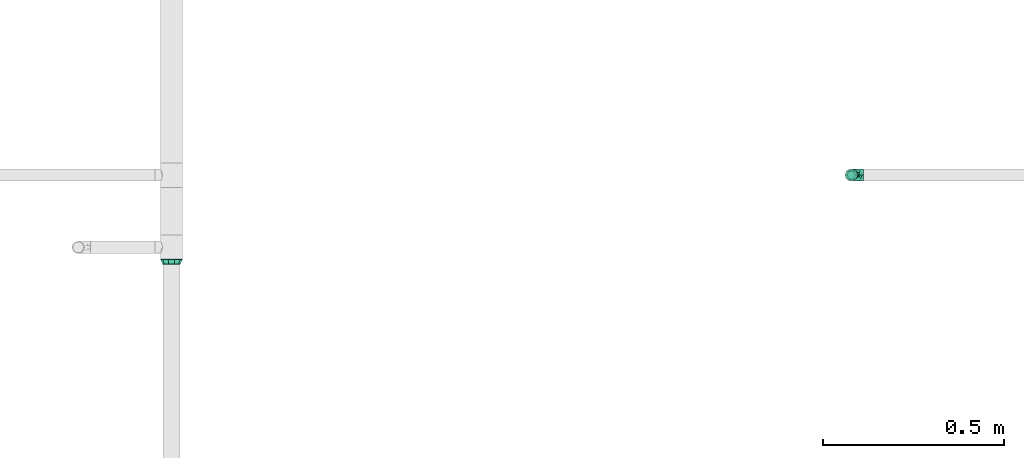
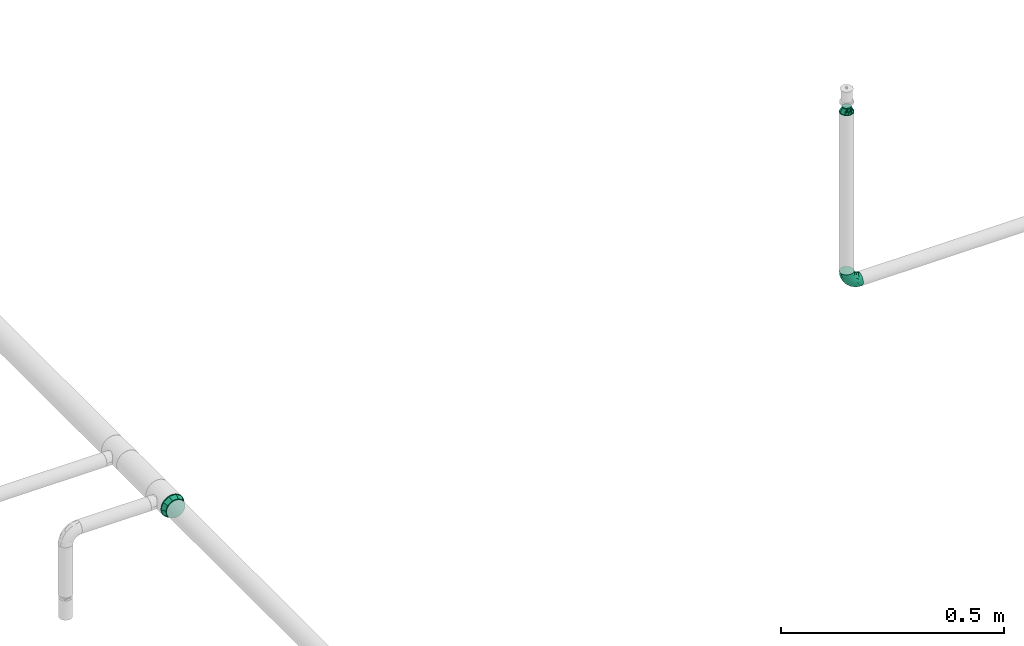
# One storey, part 98 of 157: 3 flow fittings.
"""IFC2X3 building model written with IfcOpenShell, lengths in millimetres."""

from ifc_helpers import new_model, entity, si_unit, converted_unit, derived_unit, direction, frame, origin_with_axes, place, context, subcontext, project, spatial, open_shell, surface_model, source, transform, mapped, type_object, element, save


model = new_model("IFC2X3")

# Units and contexts
model_context = context("Model", 3, precision=0.01, world=frame((0.0, 4.29681676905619e-09, 0.0)), true_north=direction((4.01073788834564e-13, 1.0)))
plan_context = context("Plan", 3, precision=0.01, world=frame((0.0, 4.29681676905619e-09, 0.0)), true_north=direction((4.01073788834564e-13, 1.0)))
body_context = subcontext(model_context, "Body", "Model", "MODEL_VIEW")
ifc_project = project(units=[converted_unit("PLANEANGLEUNIT", "DEGREE", entity("IfcPositiveLengthMeasure", 0.0174532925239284), si_unit("PLANEANGLEUNIT", "RADIAN"), dimensions=[0, 0, 0, 0, 0, 0, 0]), si_unit("AREAUNIT", "SQUARE_METRE"), si_unit("LENGTHUNIT", "METRE", prefix="MILLI"), si_unit("MASSUNIT", "GRAM", prefix="KILO"), si_unit("POWERUNIT", "WATT"), si_unit("PRESSUREUNIT", "PASCAL"), si_unit("FORCEUNIT", "NEWTON", prefix="KILO"), si_unit("ELECTRICCURRENTUNIT", "AMPERE"), si_unit("THERMODYNAMICTEMPERATUREUNIT", "DEGREE_CELSIUS"), si_unit("TIMEUNIT", "SECOND"), si_unit("VOLUMEUNIT", "CUBIC_METRE"), derived_unit("LINEARVELOCITYUNIT", [(si_unit("LENGTHUNIT", "METRE"), 1), (si_unit("TIMEUNIT", "SECOND"), -1)]), derived_unit("VOLUMETRICFLOWRATEUNIT", [(si_unit("VOLUMEUNIT", "CUBIC_METRE"), 1), (si_unit("TIMEUNIT", "SECOND"), -1)]), derived_unit("THERMALTRANSMITTANCEUNIT", [(si_unit("POWERUNIT", "WATT"), 1), (si_unit("THERMODYNAMICTEMPERATUREUNIT", "KELVIN"), -1), (si_unit("AREAUNIT", "SQUARE_METRE"), -1)])], contexts=[model_context, plan_context])

# Site, building, storey
site_placement = place(None, frame((0.0, -4.29681676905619e-09, 0.0), z_axis=(0.0, 0.0, 1.0), x_axis=(1.0, 0.0, 0.0)))
site = spatial("IfcSite", under=ifc_project, at=site_placement, CompositionType="ELEMENT")
building_placement = place(site_placement, frame((0.0, 4.29681676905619e-09, 0.0), z_axis=(0.0, 0.0, 1.0), x_axis=(1.0, 0.0, 0.0)))
building = spatial("IfcBuilding", under=site, at=building_placement, Name="mc-building", CompositionType="ELEMENT")
storey_placement = place(building_placement, frame((0.0, 0.0, 204000.0), z_axis=(0.0, 0.0, 1.0), x_axis=(1.0, 0.0, 0.0)))
storey = spatial("IfcBuildingStorey", under=building, at=storey_placement, Name="Nivå D", CompositionType="ELEMENT", Elevation=204000.0)

# Flow fittings
pipe_fitting_type_1 = type_object("IfcPipeFittingType", Name="magi_pipe_fe_elbow_short_001", PredefinedType="BEND")
shared_shape_1 = source(origin_with_axes(), body_context, "Body", "SurfaceModel", [
    surface_model("IfcShellBasedSurfaceModel", [(-33.8, 8.45, -14.63583), (-33.8, 4.37404, -16.32415), (-33.8, 11.9501, -11.9501), (-33.8, -11.9501, -11.9501), (-33.8, -14.63583, -8.45), (-33.8, -8.45, -14.63583), (-33.8, 0.0, -16.9), (-33.8, -4.37404, -16.32415), (-33.8, -4.37404, 16.32415), (-33.8, 0.0, 16.9), (-33.8, -8.45, 14.63583), (-33.8, 16.32415, -4.37404), (-33.8, 14.63583, -8.45), (-33.8, -16.32415, -4.37404), (-33.8, -16.9, 0.0), (-33.8, -16.32415, 4.37404), (-33.8, 11.9501, 11.9501), (-33.8, 14.63583, 8.45), (-33.8, 16.32415, 4.37404), (-33.8, 4.37404, 16.32415), (-33.8, 8.45, 14.63583), (-33.8, -14.63583, 8.45), (-33.8, -11.9501, 11.9501), (-33.8, 16.9, 0.0), (-11.9501, 33.8, -11.9501), (0.0, 33.8, -16.9), (-4.37404, 33.8, -16.32415), (-8.45, 33.8, -14.63583), (-14.63583, 33.8, -8.45), (-16.32415, 33.8, -4.37404), (14.63583, 33.8, -8.45), (8.45, 33.8, 14.63583), (16.32415, 33.8, -4.37404), (8.45, 33.8, -14.63583), (11.9501, 33.8, -11.9501), (4.37404, 33.8, -16.32415), (16.32415, 33.8, 4.37404), (16.9, 33.8, 0.0), (-11.9501, 33.8, 11.9501), (-16.32415, 33.8, 4.37404), (-14.63583, 33.8, 8.45), (-8.45, 33.8, 14.63583), (-4.37404, 33.8, 16.32415), (11.9501, 33.8, 11.9501), (14.63583, 33.8, 8.45), (0.0, 33.8, 16.9), (4.37404, 33.8, 16.32415), (-16.9, 33.8, 0.0), (-24.79389, -13.12945, 9.48721), (-22.19287, -9.75018, 12.59315), (-24.09897, -14.97035, 0.0), (-14.93934, -10.76256, 8.5297), (-22.46095, -14.75051, 5.27077), (14.75051, 22.46094, 5.27077), (11.9251, 13.23888, 4.33236), (13.04069, 14.39795, 0.0), (7.71387, 13.68847, 11.55891), (9.75018, 22.19287, 12.59315), (4.10169, 13.0571, 14.04018), (-24.84007, -6.39063, 15.2048), (-25.81779, -2.23879, 16.61097), (-23.66549, 2.59054, 16.87119), (-26.50418, 14.06512, 11.08152), (-24.21253, 17.66365, 7.72657), (-29.58514, 15.86957, 7.00283), (-6.17382, -7.5455, 0.0), (-13.23888, -11.9251, 4.33236), (-14.39795, -13.04069, 0.0), (-17.81434, 18.87373, 11.97104), (-6.30846, 29.15138, 15.82987), (-2.31622, 25.28002, 16.85849), (-29.23923, 10.23435, 13.77053), (-1.45439, -2.85688, 7.61475), (-0.28326, 0.34872, 10.09509), (-5.74484, -4.04709, 10.4122), (-4.41137, 11.31918, 16.59407), (-8.39727, 3.10034, 15.7812), (-1.72649, 9.1306, 15.53089), (-17.39909, 24.75344, 7.64977), (-26.19233, 20.0512, 0.0), (-28.14518, 17.29657, 4.25857), (-26.05147, 6.6281, 15.96447), (-5.87354, 16.61944, 16.86968), (-12.51807, 12.51807, 16.48937), (-10.06312, 7.38516, 16.81295), (-3.01882, 3.01882, 13.81718), (-13.0571, -4.10169, 14.04018), (-16.82553, -0.15166, 16.38038), (10.76256, 14.93934, 8.5297), (13.12945, 24.79389, 9.48721), (6.39063, 24.84007, 15.2048), (2.23879, 25.81779, 16.61097), (-13.68847, -7.71387, 11.55891), (14.97035, 24.09897, 0.0), (-7.30894, 22.89991, 16.09489), (-10.67958, 26.17414, 14.008), (-12.78295, 18.26924, 15.06066), (-13.88562, 22.45231, 12.93244), (-18.04944, 15.16501, 14.04434), (-23.11658, 20.08178, 4.02986), (-21.84989, 21.84989, 0.0), (-18.55817, 25.48277, 3.93065), (-13.95142, 26.94732, 11.03289), (-18.57098, 7.23906, 16.59756), (-16.58335, 4.14122, 16.89279), (-17.96666, 11.46709, 15.63151), (-9.84453, 17.54304, 16.18938), (0.15166, 16.82553, 16.38038), (-23.27207, 11.47201, 14.23154), (3.84842, 5.86994, 10.70473), (-8.0212, -7.54413, 7.93275), (1.00345, -2.19508, 4.57414), (5.13203, 3.01004, 5.90201), (5.24161, 1.7543, 2.53265), (8.70457, 7.04947, 3.99182), (-20.0512, 26.19233, 0.0), (8.4852, 8.76699, 7.09296), (-4.55488, -6.72064, 4.90681), (2.05031, -2.05031, 0.0), (7.5455, 6.17382, 0.0), (-26.75399, 2.1369, -16.845), (-14.61995, 24.73803, -11.27736), (-28.45274, -13.45335, -9.81895), (-26.00469, 6.63555, -15.96645), (-23.06726, 20.04573, -4.26202), (-13.80647, -4.26506, -14.17873), (-14.67501, -0.21081, -16.07388), (-6.7902, -0.2828, -13.8478), (-24.53586, 11.08096, -14.13417), (-26.72048, 14.00837, -11.05776), (10.0967, 24.44989, -12.75976), (5.83237, 21.40218, -15.03047), (6.66249, 28.54238, -15.38093), (-20.38182, 15.48705, -12.74596), (12.53268, 21.23441, -9.15363), (12.54494, 15.67504, -5.54878), (9.7522, 12.89279, -8.66343), (-15.65186, 19.64213, -13.01327), (-12.03528, 20.66498, -14.67665), (-15.61907, 15.61906, -14.83879), (-25.56551, -15.26206, 0.0), (-24.65452, -15.12934, -5.50955), (13.45335, 28.45274, -9.81895), (15.12934, 24.65452, -5.50955), (-7.35442, -8.31014, -5.65563), (-15.67504, -12.54494, -5.54878), (-24.44989, -10.0967, -12.75976), (0.16522, 0.41303, -9.71728), (-5.70658, -5.33066, -8.89288), (-5.13869, -2.37198, -11.53565), (-21.23441, -12.53268, -9.15363), (0.71146, 7.93863, -14.09382), (0.21081, 14.67501, -16.07388), (3.49291, 14.42772, -14.76381), (-24.89911, -2.13088, -16.591), (-28.54238, -6.66249, -15.38093), (-18.44386, -7.71663, -13.26957), (2.13088, 24.89911, -16.591), (-28.64342, 17.44413, -2.89318), (1.70017, -1.28722, -5.09504), (-16.57067, 26.81947, -7.36596), (-17.69055, 27.4263, -3.76405), (-12.89279, -9.7522, -8.66343), (-5.96611, 5.96611, -15.95814), (-20.53709, 20.09345, -8.28985), (-2.1369, 26.75399, -16.845), (-6.89872, 24.58781, -16.02578), (-10.60739, 26.53157, -13.98044), (-21.40218, -5.83237, -15.03047), (2.93192, 5.89627, -11.55917), (6.89393, 12.61842, -11.82233), (5.58056, 5.95325, -8.79455), (-3.99512, 18.61798, -16.89635), (8.31014, 7.35442, -5.65563), (-9.1383, 9.86148, -16.89041), (-9.99983, 16.02119, -16.39699), (-16.68576, 9.78031, -16.34199), (-27.01915, 16.61158, -7.12979), (15.26206, 25.56551, 0.0), (-18.61798, 3.99512, -16.89635), (-19.37495, 27.82495, 0.0), (-12.61842, -6.89393, -11.82233), (-18.84705, 19.14018, -10.96545)], [open_shell([[[0, 1, 2]], [[3, 4, 5]], [[6, 7, 5]], [[8, 9, 10]], [[1, 6, 2]], [[11, 12, 2]], [[4, 2, 6]], [[2, 13, 10]], [[5, 4, 6]], [[2, 4, 13]], [[14, 15, 13]], [[11, 2, 16]], [[11, 17, 18]], [[11, 16, 17]], [[19, 20, 16]], [[16, 2, 10]], [[19, 16, 10]], [[21, 22, 15]], [[22, 13, 15]], [[22, 10, 13]], [[10, 9, 19]], [[11, 18, 23]], [[24, 25, 26]], [[24, 26, 27]], [[24, 28, 29]], [[25, 24, 30]], [[31, 32, 24]], [[33, 30, 34]], [[33, 35, 25]], [[25, 30, 33]], [[32, 30, 24]], [[32, 36, 37]], [[38, 24, 29]], [[39, 40, 29]], [[40, 38, 29]], [[38, 41, 42]], [[38, 31, 24]], [[31, 38, 42]], [[36, 43, 44]], [[36, 32, 43]], [[31, 45, 46]], [[32, 31, 43]], [[42, 45, 31]], [[39, 29, 47]], [[22, 48, 49]], [[15, 14, 50]], [[51, 48, 52]], [[53, 54, 55]], [[48, 22, 21]], [[15, 52, 21]], [[56, 57, 58]], [[49, 10, 22]], [[49, 59, 10]], [[9, 60, 61]], [[62, 63, 64]], [[65, 66, 67]], [[57, 43, 31]], [[62, 68, 63]], [[42, 69, 70]], [[20, 71, 16]], [[8, 60, 9]], [[72, 73, 74]], [[75, 76, 77]], [[16, 62, 17]], [[40, 39, 78]], [[79, 23, 80]], [[64, 18, 17]], [[9, 61, 19]], [[19, 81, 20]], [[82, 83, 84]], [[74, 85, 86]], [[59, 86, 87]], [[88, 89, 57]], [[90, 31, 46]], [[44, 53, 36]], [[46, 45, 91]], [[54, 53, 88]], [[44, 89, 53]], [[92, 86, 49]], [[89, 44, 43]], [[10, 59, 8]], [[53, 55, 93]], [[93, 36, 53]], [[66, 52, 67]], [[94, 82, 70]], [[95, 96, 94]], [[97, 98, 96]], [[79, 99, 100]], [[41, 38, 95]], [[101, 100, 99]], [[68, 78, 63]], [[42, 41, 69]], [[23, 18, 80]], [[95, 94, 69]], [[78, 101, 99]], [[38, 102, 95]], [[70, 45, 42]], [[97, 95, 102]], [[15, 50, 52]], [[90, 57, 31]], [[57, 90, 58]], [[81, 19, 61]], [[103, 104, 84]], [[105, 81, 103]], [[38, 40, 102]], [[106, 96, 83]], [[94, 106, 82]], [[91, 70, 107]], [[71, 62, 16]], [[62, 108, 98]], [[86, 59, 49]], [[67, 52, 50]], [[60, 59, 87]], [[92, 49, 51]], [[86, 85, 76]], [[91, 90, 46]], [[37, 36, 93]], [[107, 77, 58]], [[107, 58, 90]], [[58, 85, 109]], [[110, 74, 92]], [[72, 74, 110]], [[66, 51, 52]], [[72, 111, 112]], [[113, 114, 112]], [[56, 88, 57]], [[52, 48, 21]], [[49, 48, 51]], [[57, 89, 43]], [[53, 89, 88]], [[103, 81, 61]], [[71, 81, 108]], [[18, 64, 80]], [[63, 78, 99]], [[47, 115, 101]], [[101, 115, 100]], [[40, 78, 102]], [[68, 102, 78]], [[97, 96, 95]], [[105, 98, 108]], [[103, 84, 83]], [[107, 70, 82]], [[76, 84, 87]], [[82, 84, 75]], [[70, 91, 45]], [[90, 91, 107]], [[59, 60, 8]], [[61, 60, 87]], [[73, 85, 74]], [[109, 112, 116]], [[103, 61, 104]], [[105, 103, 83]], [[96, 105, 83]], [[81, 105, 108]], [[96, 98, 105]], [[62, 98, 68]], [[61, 87, 104]], [[87, 84, 104]], [[86, 76, 87]], [[77, 76, 85]], [[58, 77, 85]], [[75, 77, 107]], [[82, 75, 107]], [[76, 75, 84]], [[81, 71, 20]], [[62, 71, 108]], [[95, 69, 41]], [[70, 69, 94]], [[62, 64, 17]], [[80, 63, 99]], [[63, 80, 64]], [[80, 99, 79]], [[66, 65, 117]], [[110, 66, 117]], [[112, 114, 116]], [[118, 117, 65]], [[110, 92, 51]], [[112, 111, 113]], [[119, 55, 54]], [[74, 86, 92]], [[58, 109, 56]], [[116, 56, 109]], [[66, 110, 51]], [[72, 110, 117]], [[111, 72, 117]], [[73, 112, 109]], [[117, 118, 111]], [[113, 111, 118]], [[118, 119, 113]], [[114, 119, 54]], [[119, 114, 113]], [[116, 54, 88]], [[54, 116, 114]], [[116, 88, 56]], [[112, 73, 72]], [[85, 73, 109]], [[78, 39, 101]], [[47, 101, 39]], [[102, 68, 97]], [[97, 68, 98]], [[82, 106, 83]], [[94, 96, 106]], [[1, 120, 6]], [[28, 24, 121]], [[3, 122, 4]], [[0, 123, 1]], [[100, 124, 79]], [[125, 126, 127]], [[128, 2, 129]], [[130, 131, 132]], [[128, 129, 133]], [[134, 135, 136]], [[137, 138, 139]], [[128, 0, 2]], [[67, 140, 141]], [[134, 142, 143]], [[141, 13, 4]], [[144, 65, 145]], [[146, 3, 5]], [[147, 148, 149]], [[145, 141, 150]], [[151, 152, 153]], [[154, 7, 6]], [[5, 155, 146]], [[150, 146, 156]], [[155, 5, 7]], [[143, 135, 134]], [[35, 157, 25]], [[23, 79, 158]], [[148, 159, 144]], [[160, 161, 29]], [[145, 162, 144]], [[163, 152, 151]], [[29, 28, 160]], [[121, 164, 160]], [[33, 34, 130]], [[25, 165, 26]], [[26, 165, 166]], [[142, 34, 30]], [[24, 27, 167]], [[124, 161, 164]], [[157, 35, 132]], [[155, 154, 168]], [[123, 0, 128]], [[169, 170, 171]], [[172, 157, 152]], [[26, 166, 27]], [[132, 35, 33]], [[142, 130, 34]], [[168, 154, 126]], [[136, 135, 173]], [[133, 137, 139]], [[2, 12, 129]], [[170, 131, 130]], [[30, 32, 143]], [[172, 174, 175]], [[176, 123, 128]], [[158, 177, 11]], [[135, 55, 119]], [[167, 27, 166]], [[175, 166, 172]], [[137, 167, 138]], [[122, 141, 4]], [[140, 14, 13]], [[32, 37, 178]], [[170, 130, 134]], [[152, 157, 131]], [[165, 157, 172]], [[153, 170, 151]], [[152, 163, 174]], [[168, 125, 156]], [[122, 146, 150]], [[120, 154, 6]], [[179, 174, 126]], [[179, 126, 154]], [[126, 163, 127]], [[162, 145, 150]], [[140, 13, 141]], [[32, 178, 143]], [[55, 143, 178]], [[177, 129, 12]], [[128, 133, 139]], [[176, 128, 139]], [[120, 123, 179]], [[121, 160, 28]], [[161, 100, 180]], [[166, 175, 138]], [[121, 24, 167]], [[161, 47, 29]], [[79, 124, 158]], [[124, 164, 177]], [[161, 124, 100]], [[136, 171, 170]], [[127, 163, 151]], [[147, 171, 159]], [[148, 144, 162]], [[127, 151, 169]], [[127, 181, 125]], [[129, 177, 164]], [[12, 11, 177]], [[159, 65, 144]], [[67, 141, 145]], [[143, 55, 135]], [[135, 119, 173]], [[123, 120, 1]], [[154, 120, 179]], [[157, 165, 25]], [[166, 165, 172]], [[172, 152, 174]], [[176, 139, 175]], [[126, 174, 163]], [[176, 174, 179]], [[174, 176, 175]], [[123, 176, 179]], [[150, 181, 162]], [[127, 149, 181]], [[181, 148, 162]], [[159, 148, 147]], [[171, 136, 173]], [[170, 134, 136]], [[159, 171, 173]], [[171, 147, 169]], [[169, 147, 149]], [[151, 170, 169]], [[164, 182, 129]], [[182, 121, 137]], [[181, 149, 148]], [[169, 149, 127]], [[182, 137, 133]], [[167, 137, 121]], [[166, 138, 167]], [[175, 139, 138]], [[129, 182, 133]], [[121, 182, 164]], [[161, 160, 164]], [[47, 161, 180]], [[177, 158, 124]], [[23, 158, 11]], [[130, 132, 33]], [[157, 132, 131]], [[143, 142, 30]], [[130, 142, 134]], [[154, 155, 7]], [[146, 155, 168]], [[146, 122, 3]], [[141, 122, 150]], [[152, 131, 153]], [[159, 119, 118]], [[67, 145, 65]], [[170, 153, 131]], [[119, 159, 173]], [[159, 118, 65]], [[156, 125, 181]], [[126, 125, 168]], [[150, 156, 181]], [[168, 156, 146]]])]),
])
flow_fitting_1_placement = place(storey_placement, frame((529640.35, 410800.0, 2690.0), z_axis=(0.0, 1.0, 0.0), x_axis=(-1.0, 0.0, 0.0)))
element("IfcFlowFitting", 1, at=flow_fitting_1_placement, inside=storey, type_object=pipe_fitting_type_1, Name="magi_pipe_fe_elbow_short_001", context=body_context, shape_type="MappedRepresentation", body=[
    mapped(shared_shape_1, transform((0.0, 0.0, 0.0), scale=1.0)),
])
pipe_fitting_type_2 = type_object("IfcPipeFittingType", Name="magi_pipe_fe_reducer_centric_short_NOR", PredefinedType="TRANSITION")
shared_shape_2 = source(origin_with_axes(), body_context, "Body", "SurfaceModel", [
    surface_model("IfcShellBasedSurfaceModel", [(-2.0, -7.56604, -7.56604), (-2.0, -10.33541, -2.76936), (-2.0, -5.35, -9.26647), (-2.0, 5.35, -9.26647), (-2.0, 10.33541, -2.76936), (-2.0, 7.56604, -7.56604), (12.4, 11.9501, 11.9501), (12.4, 0.0, 16.9), (12.4, 11.9501, -11.9501), (12.4, 16.9, 0.0), (0.0, -10.7, 0.0), (0.0, -5.35, 9.26647), (0.0, -5.35, -9.26647), (0.0, 10.7, 0.0), (12.4, 15.66253, -2.98753), (12.4, 8.96258, -13.18758), (0.0, 6.6875, -6.94985), (12.4, -15.66253, -2.98753), (12.4, -16.9, 0.0), (12.4, 5.97505, -14.42505), (0.0, 5.35, -9.26647), (12.4, 14.42505, -5.97505), (0.0, 8.025, -4.63324), (0.0, 9.3625, -2.31662), (0.0, -9.3625, -2.31662), (0.0, -8.025, -4.63324), (12.4, -14.42505, -5.97505), (12.4, 13.18758, -8.96258), (12.4, -13.18758, -8.96258), (12.4, -11.9501, -11.9501), (0.0, -6.6875, -6.94985), (12.4, -8.96258, -13.18758), (12.4, -5.97505, -14.42505), (12.4, -15.66253, 2.98753), (12.4, -8.96258, 13.18758), (0.0, -6.6875, 6.94985), (12.4, -11.9501, 11.9501), (12.4, 15.66253, 2.98753), (12.4, -5.97505, 14.42505), (12.4, -14.42505, 5.97505), (0.0, -8.025, 4.63324), (0.0, -9.3625, 2.31662), (0.0, 9.3625, 2.31662), (0.0, 8.025, 4.63324), (12.4, 14.42505, 5.97505), (12.4, -13.18758, 8.96258), (12.4, 13.18758, 8.96258), (0.0, 6.6875, 6.94985), (12.4, 8.96258, 13.18758), (0.0, 5.35, 9.26647), (12.4, 5.97505, 14.42505), (14.4, 4.37404, -16.32415), (14.4, 8.45, -14.63583), (14.4, 11.9501, -11.9501), (14.4, -8.45, -14.63583), (14.4, 16.32415, -4.37404), (14.4, 16.32415, 4.37404), (14.4, 14.63583, -8.45), (14.4, 0.0, -16.9), (14.4, -4.37404, -16.32415), (14.4, -11.9501, -11.9501), (14.4, -16.32415, -4.37404), (14.4, -14.63583, -8.45), (14.4, -16.32415, 4.37404), (14.4, 16.9, 0.0), (14.4, 14.63583, 8.45), (14.4, 11.9501, 11.9501), (14.4, 4.37404, 16.32415), (14.4, 8.45, 14.63583), (14.4, 0.0, 16.9), (14.4, -14.63583, 8.45), (14.4, -16.9, 0.0), (14.4, -8.45, 14.63583), (14.4, -11.9501, 11.9501), (14.4, -4.37404, 16.32415), (12.4, 4.37404, 16.32415), (12.4, -14.63583, 8.45), (12.4, 16.32415, 4.37404), (12.4, 8.45, 14.63583), (12.4, 14.63583, 8.45), (12.4, -8.45, 14.63583), (12.4, -4.37404, 16.32415), (12.4, -16.32415, 4.37404), (12.4, -16.32415, -4.37404), (12.4, -8.45, -14.63583), (12.4, 16.32415, -4.37404), (12.4, 14.63583, -8.45), (12.4, 8.45, -14.63583), (12.4, 4.37404, -16.32415), (12.4, 0.0, -16.9), (12.4, -14.63583, -8.45), (12.4, -4.37404, -16.32415), (-2.0, 2.76936, 10.33541), (-2.0, 0.0, 10.7), (-2.0, 5.35, 9.26647), (-2.0, 7.56604, 7.56604), (-2.0, 9.26647, 5.35), (-2.0, 10.33541, 2.76936), (-2.0, -10.33541, 2.76936), (-2.0, -2.76936, 10.33541), (-2.0, -7.56604, 7.56604), (-2.0, -5.35, 9.26647), (-2.0, -9.26647, 5.35), (-2.0, -10.7, 0.0), (-2.0, 9.26647, -5.35), (-2.0, 2.76936, -10.33541), (-2.0, -9.26647, -5.35), (-2.0, 0.0, -10.7), (-2.0, -2.76936, -10.33541), (-2.0, 10.7, 0.0), (0.0, 0.0, -10.7), (0.0, 2.76936, -10.33541), (0.0, 10.33541, -2.76936), (0.0, 7.56604, -7.56604), (0.0, -10.33541, -2.76936), (0.0, 9.26647, -5.35), (0.0, 0.0, 10.7), (0.0, -2.76936, -10.33541), (0.0, -7.56604, -7.56604), (0.0, -9.26647, -5.35), (0.0, 10.33541, 2.76936), (0.0, 9.26647, 5.35), (0.0, 7.56604, 7.56604), (0.0, 2.76936, 10.33541), (0.0, -7.56604, 7.56604), (0.0, -10.33541, 2.76936), (0.0, -9.26647, 5.35), (0.0, -2.76936, 10.33541), (0.0, 2.675, -9.26647), (0.0, -2.675, -9.26647), (12.4, 2.98753, -15.66253), (0.0, 0.0, -9.26647), (12.4, -2.98753, -15.66253), (0.0, -2.675, 9.26647), (0.0, 2.675, 9.26647), (12.4, -2.98753, 15.66253), (0.0, 0.0, 9.26647), (12.4, 2.98753, 15.66253)], [open_shell([[[0, 1, 2]], [[3, 4, 5]], [[6, 7, 8]], [[8, 9, 6]], [[10, 11, 12]], [[13, 9, 14]], [[15, 16, 8]], [[17, 18, 10]], [[15, 19, 20]], [[21, 22, 23]], [[24, 25, 26]], [[22, 21, 27]], [[28, 26, 25]], [[29, 30, 31]], [[12, 32, 31]], [[10, 18, 33]], [[34, 35, 36]], [[37, 9, 13]], [[34, 38, 11]], [[39, 40, 41]], [[42, 43, 44]], [[40, 39, 45]], [[46, 44, 43]], [[6, 47, 48]], [[49, 50, 48]], [[51, 52, 53]], [[54, 51, 53]], [[53, 55, 56]], [[55, 53, 57]], [[53, 56, 54]], [[58, 54, 59]], [[58, 51, 54]], [[60, 61, 62]], [[61, 60, 54]], [[54, 63, 61]], [[56, 55, 64]], [[56, 65, 66]], [[56, 66, 67]], [[67, 63, 54]], [[67, 66, 68]], [[63, 67, 69]], [[69, 70, 63]], [[71, 61, 63]], [[70, 72, 73]], [[70, 69, 72]], [[72, 69, 74]], [[54, 56, 67]], [[75, 76, 7]], [[77, 75, 78]], [[6, 79, 77]], [[6, 77, 78]], [[76, 75, 77]], [[80, 76, 36]], [[80, 81, 7]], [[7, 76, 80]], [[82, 76, 77]], [[82, 83, 18]], [[82, 77, 84]], [[77, 85, 8]], [[8, 85, 86]], [[8, 87, 88]], [[84, 77, 8]], [[88, 89, 8]], [[83, 29, 90]], [[29, 83, 84]], [[84, 89, 91]], [[83, 82, 84]], [[8, 89, 84]], [[85, 77, 9]], [[83, 61, 18]], [[90, 62, 83]], [[54, 29, 84]], [[90, 29, 60]], [[59, 84, 91]], [[83, 62, 61]], [[61, 71, 18]], [[59, 54, 84]], [[60, 29, 54]], [[60, 62, 90]], [[58, 59, 91]], [[91, 89, 58]], [[88, 51, 89]], [[87, 52, 88]], [[57, 8, 86]], [[87, 8, 53]], [[55, 86, 85]], [[87, 53, 52]], [[52, 51, 88]], [[64, 55, 85]], [[57, 86, 55]], [[57, 53, 8]], [[9, 64, 85]], [[89, 51, 58]], [[77, 56, 9]], [[79, 65, 77]], [[68, 6, 78]], [[79, 6, 66]], [[67, 78, 75]], [[77, 65, 56]], [[56, 64, 9]], [[67, 68, 78]], [[66, 6, 68]], [[66, 65, 79]], [[69, 67, 75]], [[75, 7, 69]], [[81, 74, 7]], [[80, 72, 81]], [[70, 36, 76]], [[80, 36, 73]], [[63, 76, 82]], [[80, 73, 72]], [[72, 74, 81]], [[71, 63, 82]], [[70, 76, 63]], [[70, 73, 36]], [[18, 71, 82]], [[7, 74, 69]], [[92, 1, 93]], [[94, 1, 92]], [[95, 96, 97]], [[95, 97, 94]], [[98, 93, 1]], [[99, 100, 101]], [[99, 93, 100]], [[100, 98, 102]], [[93, 98, 100]], [[98, 1, 103]], [[94, 97, 1]], [[1, 97, 4]], [[5, 4, 104]], [[4, 3, 1]], [[105, 1, 3]], [[1, 0, 106]], [[2, 107, 108]], [[2, 1, 105]], [[105, 107, 2]], [[4, 97, 109]], [[20, 110, 111]], [[112, 20, 113]], [[114, 20, 112]], [[112, 113, 115]], [[116, 114, 112]], [[110, 12, 117]], [[110, 20, 12]], [[118, 114, 119]], [[114, 118, 12]], [[20, 114, 12]], [[112, 13, 120]], [[120, 121, 122]], [[120, 122, 123]], [[116, 112, 123]], [[123, 122, 49]], [[116, 124, 114]], [[125, 124, 126]], [[10, 114, 125]], [[124, 127, 11]], [[125, 114, 124]], [[127, 124, 116]], [[123, 112, 120]], [[1, 114, 103]], [[106, 119, 1]], [[12, 0, 2]], [[106, 0, 118]], [[117, 2, 108]], [[1, 119, 114]], [[114, 10, 103]], [[117, 12, 2]], [[118, 0, 12]], [[118, 119, 106]], [[110, 117, 108]], [[108, 107, 110]], [[105, 111, 107]], [[3, 20, 105]], [[115, 5, 104]], [[3, 5, 113]], [[112, 104, 4]], [[3, 113, 20]], [[20, 111, 105]], [[13, 112, 4]], [[115, 104, 112]], [[115, 113, 5]], [[109, 13, 4]], [[107, 111, 110]], [[97, 120, 109]], [[96, 121, 97]], [[49, 95, 94]], [[96, 95, 122]], [[123, 94, 92]], [[97, 121, 120]], [[120, 13, 109]], [[123, 49, 94]], [[122, 95, 49]], [[122, 121, 96]], [[116, 123, 92]], [[92, 93, 116]], [[99, 127, 93]], [[101, 11, 99]], [[126, 100, 102]], [[101, 100, 124]], [[125, 102, 98]], [[101, 124, 11]], [[11, 127, 99]], [[10, 125, 98]], [[126, 102, 125]], [[126, 124, 100]], [[103, 10, 98]], [[93, 127, 116]], [[18, 7, 36]], [[18, 29, 8]], [[89, 8, 29]], [[18, 8, 7]], [[13, 11, 49]], [[13, 20, 12]], [[13, 12, 11]], [[24, 26, 17]], [[10, 24, 17]], [[16, 15, 20]], [[30, 12, 31]], [[23, 14, 21]], [[19, 128, 20]], [[27, 8, 16]], [[32, 12, 129]], [[30, 28, 25]], [[130, 131, 128]], [[129, 132, 32]], [[16, 22, 27]], [[13, 14, 23]], [[128, 19, 130]], [[130, 89, 131]], [[131, 132, 129]], [[89, 132, 131]], [[28, 30, 29]], [[42, 44, 37]], [[13, 42, 37]], [[35, 34, 11]], [[47, 49, 48]], [[41, 33, 39]], [[38, 133, 11]], [[45, 36, 35]], [[50, 49, 134]], [[47, 46, 43]], [[135, 136, 133]], [[134, 137, 50]], [[35, 40, 45]], [[10, 33, 41]], [[133, 38, 135]], [[135, 7, 136]], [[136, 137, 134]], [[7, 137, 136]], [[46, 47, 6]]])]),
])
flow_fitting_2_placement = place(storey_placement, frame((529640.35, 410800.0, 3173.54800000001), z_axis=(0.0, -1.0, 0.0), x_axis=(0.0, 0.0, -1.0)))
element("IfcFlowFitting", 2, at=flow_fitting_2_placement, inside=storey, type_object=pipe_fitting_type_2, Name="magi_pipe_fe_reducer_centric_short_NOR", context=body_context, shape_type="MappedRepresentation", body=[
    mapped(shared_shape_2, transform((0.0, 0.0, 0.0), scale=1.0)),
])
shared_shape_3 = source(origin_with_axes(), body_context, "Body", "SurfaceModel", [
    surface_model("IfcShellBasedSurfaceModel", [(-2.0, 0.0, 30.2), (-2.0, 7.81634, 29.17096), (-2.0, 15.1, 26.15397), (-2.0, 21.35462, 21.35462), (-2.0, 26.15397, 15.1), (-2.0, 29.17096, 7.81634), (-2.0, -29.17096, 7.81634), (-2.0, 30.2, 0.0), (-2.0, -7.81634, 29.17096), (-2.0, -21.35462, 21.35462), (-2.0, -15.1, 26.15397), (-2.0, -26.15397, 15.1), (-2.0, -30.2, 0.0), (-2.0, 29.17096, -7.81634), (-2.0, 26.15397, -15.1), (-2.0, 21.35462, -21.35462), (-2.0, 15.1, -26.15397), (-2.0, 7.81634, -29.17096), (-2.0, -15.1, -26.15397), (-2.0, -29.17096, -7.81634), (-2.0, -21.35462, -21.35462), (-2.0, -26.15397, -15.1), (-2.0, 0.0, -30.2), (-2.0, -7.81634, -29.17096), (0.0, 7.81634, -29.17096), (0.0, 15.1, -26.15397), (0.0, 21.35462, -21.35462), (0.0, 30.2, 0.0), (0.0, 26.15397, -15.1), (0.0, 29.17096, -7.81634), (0.0, -15.1, -26.15397), (0.0, -29.17096, 7.81634), (0.0, 0.0, -30.2), (0.0, -7.81634, -29.17096), (0.0, -21.35462, -21.35462), (0.0, -29.17096, -7.81634), (0.0, -26.15397, -15.1), (0.0, 29.17096, 7.81634), (0.0, 26.15397, 15.1), (0.0, 21.35462, 21.35462), (0.0, -21.35462, 21.35462), (0.0, 15.1, 26.15397), (0.0, 7.81634, 29.17096), (0.0, 0.0, 30.2), (0.0, -26.15397, 15.1), (0.0, -30.2, 0.0), (0.0, -7.81634, 29.17096), (0.0, -15.1, 26.15397), (14.0, 12.1, -20.95781), (14.0, -24.2, 0.0), (14.0, 6.26342, -23.37541), (14.0, 23.37541, -6.26342), (14.0, 17.11198, -17.11198), (14.0, 20.95781, -12.1), (14.0, -17.11198, -17.11198), (14.0, -6.26342, -23.37541), (14.0, -12.1, -20.95781), (14.0, 0.0, -24.2), (14.0, -23.37541, -6.26342), (14.0, -20.95781, -12.1), (14.0, 24.2, 0.0), (14.0, 23.37541, 6.26342), (14.0, 20.95781, 12.1), (14.0, 17.11198, 17.11198), (14.0, 12.1, 20.95781), (14.0, 6.26342, 23.37541), (14.0, 0.0, 24.2), (14.0, -23.37541, 6.26342), (14.0, -17.11198, 17.11198), (14.0, -20.95781, 12.1), (14.0, -6.26342, 23.37541), (14.0, -12.1, 20.95781), (12.0, 0.0, 24.2), (12.0, 6.26342, 23.37541), (12.0, 12.1, 20.95781), (12.0, 17.11198, 17.11198), (12.0, 20.95781, 12.1), (12.0, 23.37541, 6.26342), (12.0, -23.37541, 6.26342), (12.0, -17.11198, -17.11198), (12.0, -6.26342, 23.37541), (12.0, -17.11198, 17.11198), (12.0, -12.1, 20.95781), (12.0, -20.95781, 12.1), (12.0, -24.2, 0.0), (12.0, 24.2, 0.0), (12.0, 17.11198, -17.11198), (12.0, 23.37541, -6.26342), (12.0, 20.95781, -12.1), (12.0, 12.1, -20.95781), (12.0, 6.26342, -23.37541), (12.0, -23.37541, -6.26342), (12.0, -20.95781, -12.1), (12.0, -6.26342, -23.37541), (12.0, -12.1, -20.95781), (12.0, 0.0, -24.2), (12.0, -7.47821, 23.01557), (12.0, -19.57821, 14.2244), (12.0, 19.57821, 14.2244), (12.0, 7.47821, 23.01557), (12.0, -7.47821, -23.01557), (12.0, -19.57821, -14.2244), (12.0, 7.47821, -23.01557), (12.0, 19.57821, -14.2244), (0.0, 9.33231, 28.72191), (0.0, 24.43231, 17.75111), (0.0, -9.33231, 28.72191), (0.0, -24.43231, 17.75111), (0.0, 9.33231, -28.72191), (0.0, 24.43231, -17.75111), (0.0, -9.33231, -28.72191), (0.0, -24.43231, -17.75111), (12.0, 13.52821, -18.61999), (0.0, 16.88231, -23.23651), (0.0, 27.31616, -8.87556), (12.0, 21.8891, -7.1122), (0.0, -27.48172, -8.36602), (12.0, 0.0, -23.01557), (0.0, 0.0, -28.72191), (12.0, -21.8891, -7.1122), (0.0, -16.88231, -23.23651), (12.0, -13.52821, -18.61999), (12.0, -13.52821, 18.61999), (0.0, -16.88231, 23.23651), (0.0, -27.31616, 8.87556), (12.0, -21.8891, 7.1122), (0.0, 27.48172, 8.36602), (12.0, 0.0, 23.01557), (0.0, 0.0, 28.72191), (12.0, 21.8891, 7.1122), (0.0, 16.88231, 23.23651), (12.0, 13.52821, 18.61999)], [open_shell([[[0, 1, 2]], [[0, 2, 3]], [[3, 4, 5]], [[0, 3, 6]], [[7, 6, 3]], [[8, 9, 10]], [[8, 0, 9]], [[9, 6, 11]], [[0, 6, 9]], [[6, 7, 12]], [[7, 3, 5]], [[7, 13, 14]], [[7, 14, 15]], [[15, 16, 17]], [[15, 17, 7]], [[17, 18, 12]], [[19, 20, 21]], [[20, 19, 18]], [[18, 22, 23]], [[19, 12, 18]], [[17, 22, 18]], [[12, 7, 17]], [[24, 25, 26]], [[24, 26, 27]], [[28, 29, 27]], [[28, 27, 26]], [[30, 24, 31]], [[32, 30, 33]], [[32, 24, 30]], [[34, 35, 36]], [[35, 34, 30]], [[30, 31, 35]], [[31, 24, 27]], [[37, 38, 39]], [[27, 39, 40]], [[41, 42, 43]], [[40, 39, 41]], [[40, 41, 43]], [[31, 40, 44]], [[45, 35, 31]], [[40, 46, 47]], [[31, 27, 40]], [[46, 40, 43]], [[37, 39, 27]], [[19, 35, 12]], [[21, 36, 19]], [[30, 20, 18]], [[21, 20, 34]], [[33, 18, 23]], [[19, 36, 35]], [[35, 45, 12]], [[33, 30, 18]], [[34, 20, 30]], [[34, 36, 21]], [[32, 33, 23]], [[23, 22, 32]], [[17, 24, 22]], [[16, 25, 17]], [[28, 15, 14]], [[16, 15, 26]], [[29, 14, 13]], [[16, 26, 25]], [[25, 24, 17]], [[27, 29, 13]], [[28, 14, 29]], [[28, 26, 15]], [[7, 27, 13]], [[22, 24, 32]], [[5, 37, 7]], [[4, 38, 5]], [[41, 3, 2]], [[4, 3, 39]], [[42, 2, 1]], [[5, 38, 37]], [[37, 27, 7]], [[42, 41, 2]], [[39, 3, 41]], [[39, 38, 4]], [[43, 42, 1]], [[1, 0, 43]], [[8, 46, 0]], [[10, 47, 8]], [[44, 9, 11]], [[10, 9, 40]], [[31, 11, 6]], [[10, 40, 47]], [[47, 46, 8]], [[45, 31, 6]], [[44, 11, 31]], [[44, 40, 9]], [[12, 45, 6]], [[0, 46, 43]], [[48, 49, 50]], [[51, 48, 52]], [[48, 51, 49]], [[51, 52, 53]], [[49, 54, 50]], [[55, 54, 56]], [[55, 57, 50]], [[54, 58, 59]], [[55, 50, 54]], [[54, 49, 58]], [[60, 49, 51]], [[61, 62, 63]], [[60, 63, 49]], [[64, 65, 66]], [[64, 66, 63]], [[49, 63, 66]], [[67, 68, 69]], [[70, 67, 49]], [[68, 70, 71]], [[70, 68, 67]], [[49, 66, 70]], [[63, 60, 61]], [[72, 73, 74]], [[72, 74, 75]], [[75, 76, 77]], [[72, 75, 78]], [[75, 79, 78]], [[80, 81, 82]], [[80, 72, 81]], [[81, 78, 83]], [[72, 78, 81]], [[78, 79, 84]], [[75, 77, 85]], [[86, 85, 87]], [[86, 87, 88]], [[89, 90, 85]], [[89, 85, 86]], [[90, 79, 75]], [[91, 79, 92]], [[84, 79, 91]], [[79, 93, 94]], [[79, 90, 93]], [[95, 93, 90]], [[75, 85, 90]], [[91, 58, 84]], [[92, 59, 91]], [[56, 79, 94]], [[92, 79, 54]], [[55, 94, 93]], [[91, 59, 58]], [[58, 49, 84]], [[55, 56, 94]], [[54, 79, 56]], [[54, 59, 92]], [[57, 55, 93]], [[93, 95, 57]], [[90, 50, 95]], [[89, 48, 90]], [[53, 86, 88]], [[89, 86, 52]], [[51, 88, 87]], [[89, 52, 48]], [[48, 50, 90]], [[60, 51, 87]], [[53, 88, 51]], [[53, 52, 86]], [[85, 60, 87]], [[95, 50, 57]], [[77, 61, 85]], [[76, 62, 77]], [[64, 75, 74]], [[76, 75, 63]], [[65, 74, 73]], [[77, 62, 61]], [[61, 60, 85]], [[65, 64, 74]], [[63, 75, 64]], [[63, 62, 76]], [[66, 65, 73]], [[73, 72, 66]], [[80, 70, 72]], [[82, 71, 80]], [[69, 81, 83]], [[82, 81, 68]], [[67, 83, 78]], [[82, 68, 71]], [[71, 70, 80]], [[49, 67, 78]], [[69, 83, 67]], [[69, 68, 81]], [[84, 49, 78]], [[72, 70, 66]], [[96, 97, 98]], [[96, 98, 99]], [[98, 97, 85]], [[97, 100, 85]], [[101, 100, 97]], [[102, 103, 85]], [[85, 100, 102]], [[84, 101, 97]], [[104, 105, 45]], [[106, 45, 107]], [[45, 106, 104]], [[105, 108, 45]], [[108, 105, 109]], [[45, 110, 111]], [[45, 108, 110]], [[109, 105, 27]], [[109, 103, 112]], [[102, 113, 112]], [[113, 102, 108]], [[114, 115, 103]], [[85, 115, 27]], [[113, 109, 112]], [[84, 45, 116]], [[108, 117, 118]], [[118, 117, 100]], [[100, 110, 118]], [[103, 109, 114]], [[27, 115, 114]], [[116, 119, 84]], [[120, 121, 101]], [[100, 121, 110]], [[111, 101, 119]], [[110, 121, 120]], [[101, 111, 120]], [[102, 117, 108]], [[111, 119, 116]], [[107, 97, 122]], [[96, 123, 122]], [[123, 96, 106]], [[124, 125, 97]], [[84, 125, 45]], [[123, 107, 122]], [[85, 27, 126]], [[106, 127, 128]], [[128, 127, 99]], [[99, 104, 128]], [[97, 107, 124]], [[45, 125, 124]], [[126, 129, 85]], [[130, 131, 98]], [[99, 131, 104]], [[105, 98, 129]], [[104, 131, 130]], [[98, 105, 130]], [[96, 127, 106]], [[105, 129, 126]]])]),
])
flow_fitting_3_placement = place(storey_placement, frame((527758.2357, 410566.2, 2880.0), z_axis=(0.0, 0.0, 1.0), x_axis=(0.0, -1.0, 0.0)))
element("IfcFlowFitting", 3, at=flow_fitting_3_placement, inside=storey, type_object=pipe_fitting_type_2, Name="magi_pipe_fe_reducer_centric_short_NOR", context=body_context, shape_type="MappedRepresentation", body=[
    mapped(shared_shape_3, transform((0.0, 0.0, 0.0), scale=1.0)),
])

save(model, "model.ifc")
